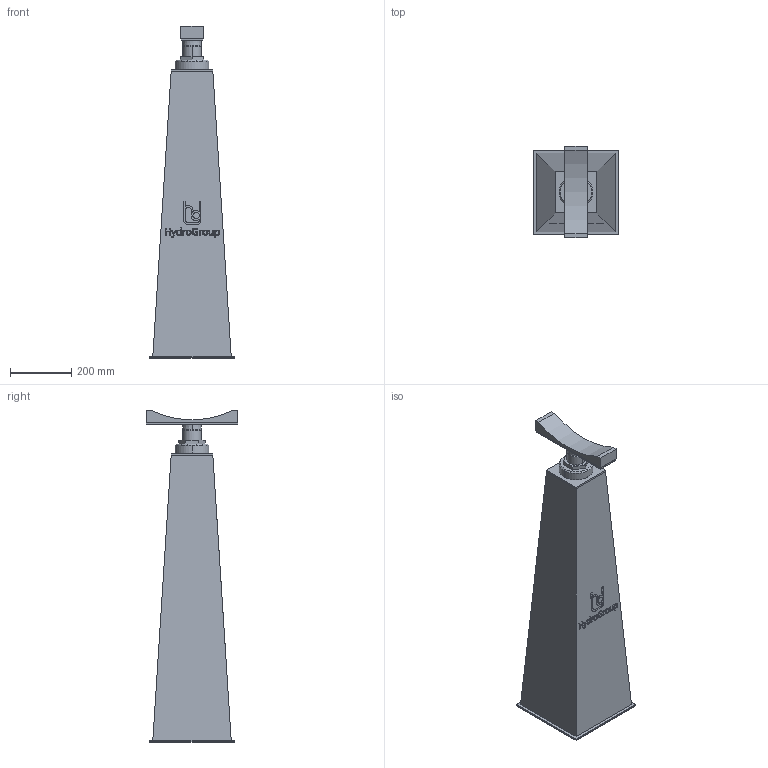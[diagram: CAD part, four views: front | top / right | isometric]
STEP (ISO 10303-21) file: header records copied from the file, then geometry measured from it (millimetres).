
FILE_DESCRIPTION(('STEP AP214'),'1');
FILE_NAME('RSRFE-III_DN600.stp','2018-06-28T11:54:13',(' '),(' '),'Spatial InterOp 3D',' ',' ');
FILE_SCHEMA(('automotive_design'));
Length unit declared in the file: millimetre
Products named in the file (6): 1; 2; 3; 4; 5; 6
Bounding box: 276.01 x 299 x 1082 mm (x, y, z)
Volume: 38938726.9 mm3; surface area: 1196475 mm2
Topology: 6 solids, 6 shells, 220 faces, 544 edges, 355 vertices
Faces by surface type: plane 144, cylinder 30, extrusion 24, cone 18, torus 4
Entity records: 8878 total; most frequent: CARTESIAN_POINT 1799, ORIENTED_EDGE 1088, DIRECTION 1001, EDGE_CURVE 544, VECTOR 419, LINE 395, VERTEX_POINT 355, AXIS2_PLACEMENT_3D 291
